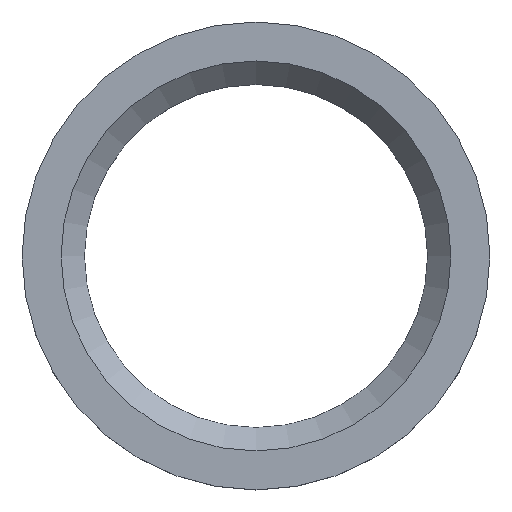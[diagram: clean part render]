
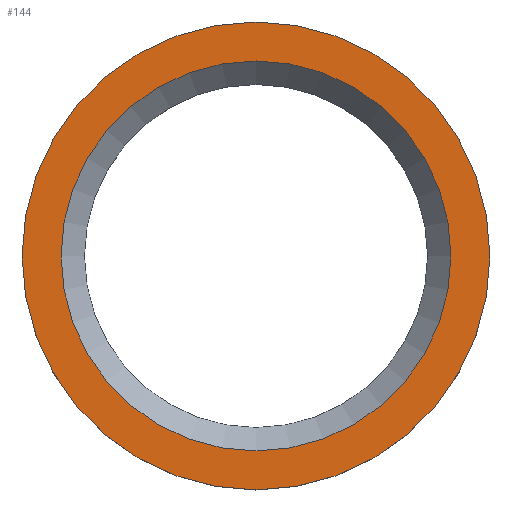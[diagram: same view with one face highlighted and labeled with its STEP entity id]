
A CAD part, top view. The second image highlights one B-rep face of the part: STEP entity #144.
In plain terms, the highlighted planar face has unit normal (0, 0, 1).
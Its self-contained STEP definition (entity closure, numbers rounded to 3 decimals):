
#24 = VERTEX_POINT('',#25);
#25 = CARTESIAN_POINT('',(30.,0.,8.));
#32 = CYLINDRICAL_SURFACE('',#33,30.);
#33 = AXIS2_PLACEMENT_3D('',#34,#35,#36);
#34 = CARTESIAN_POINT('',(0.,0.,0.));
#35 = DIRECTION('',(-0.,-0.,-1.));
#36 = DIRECTION('',(1.,0.,0.));
#51 = EDGE_CURVE('',#24,#24,#52,.T.);
#52 = SURFACE_CURVE('',#53,(#58,#65),.PCURVE_S1.);
#53 = CIRCLE('',#54,30.);
#54 = AXIS2_PLACEMENT_3D('',#55,#56,#57);
#55 = CARTESIAN_POINT('',(0.,0.,8.));
#56 = DIRECTION('',(0.,0.,1.));
#57 = DIRECTION('',(1.,0.,0.));
#58 = PCURVE('',#32,#59);
#59 = DEFINITIONAL_REPRESENTATION('',(#60),#64);
#60 = LINE('',#61,#62);
#61 = CARTESIAN_POINT('',(-0.,-8.));
#62 = VECTOR('',#63,1.);
#63 = DIRECTION('',(-1.,0.));
#64 = ( GEOMETRIC_REPRESENTATION_CONTEXT(2) 
PARAMETRIC_REPRESENTATION_CONTEXT() REPRESENTATION_CONTEXT('2D SPACE',''
  ) );
#65 = PCURVE('',#66,#71);
#66 = PLANE('',#67);
#67 = AXIS2_PLACEMENT_3D('',#68,#69,#70);
#68 = CARTESIAN_POINT('',(0.,0.,8.));
#69 = DIRECTION('',(0.,0.,1.));
#70 = DIRECTION('',(1.,0.,-0.));
#71 = DEFINITIONAL_REPRESENTATION('',(#72),#76);
#72 = CIRCLE('',#73,30.);
#73 = AXIS2_PLACEMENT_2D('',#74,#75);
#74 = CARTESIAN_POINT('',(0.,0.));
#75 = DIRECTION('',(1.,0.));
#76 = ( GEOMETRIC_REPRESENTATION_CONTEXT(2) 
PARAMETRIC_REPRESENTATION_CONTEXT() REPRESENTATION_CONTEXT('2D SPACE',''
  ) );
#144 = ADVANCED_FACE('',(#145,#148),#66,.T.);
#145 = FACE_BOUND('',#146,.T.);
#146 = EDGE_LOOP('',(#147));
#147 = ORIENTED_EDGE('',*,*,#51,.T.);
#148 = FACE_BOUND('',#149,.T.);
#149 = EDGE_LOOP('',(#150));
#150 = ORIENTED_EDGE('',*,*,#151,.F.);
#151 = EDGE_CURVE('',#152,#152,#154,.T.);
#152 = VERTEX_POINT('',#153);
#153 = CARTESIAN_POINT('',(25.,0.,8.));
#154 = SURFACE_CURVE('',#155,(#160,#167),.PCURVE_S1.);
#155 = CIRCLE('',#156,25.);
#156 = AXIS2_PLACEMENT_3D('',#157,#158,#159);
#157 = CARTESIAN_POINT('',(0.,0.,8.));
#158 = DIRECTION('',(0.,0.,1.));
#159 = DIRECTION('',(1.,0.,-0.));
#160 = PCURVE('',#66,#161);
#161 = DEFINITIONAL_REPRESENTATION('',(#162),#166);
#162 = CIRCLE('',#163,25.);
#163 = AXIS2_PLACEMENT_2D('',#164,#165);
#164 = CARTESIAN_POINT('',(0.,0.));
#165 = DIRECTION('',(1.,0.));
#166 = ( GEOMETRIC_REPRESENTATION_CONTEXT(2) 
PARAMETRIC_REPRESENTATION_CONTEXT() REPRESENTATION_CONTEXT('2D SPACE',''
  ) );
#167 = PCURVE('',#168,#173);
#168 = CONICAL_SURFACE('',#169,22.,0.785);
#169 = AXIS2_PLACEMENT_3D('',#170,#171,#172);
#170 = CARTESIAN_POINT('',(0.,0.,5.));
#171 = DIRECTION('',(0.,0.,1.));
#172 = DIRECTION('',(1.,0.,-0.));
#173 = DEFINITIONAL_REPRESENTATION('',(#174),#178);
#174 = LINE('',#175,#176);
#175 = CARTESIAN_POINT('',(0.,3.));
#176 = VECTOR('',#177,1.);
#177 = DIRECTION('',(1.,0.));
#178 = ( GEOMETRIC_REPRESENTATION_CONTEXT(2) 
PARAMETRIC_REPRESENTATION_CONTEXT() REPRESENTATION_CONTEXT('2D SPACE',''
  ) );
